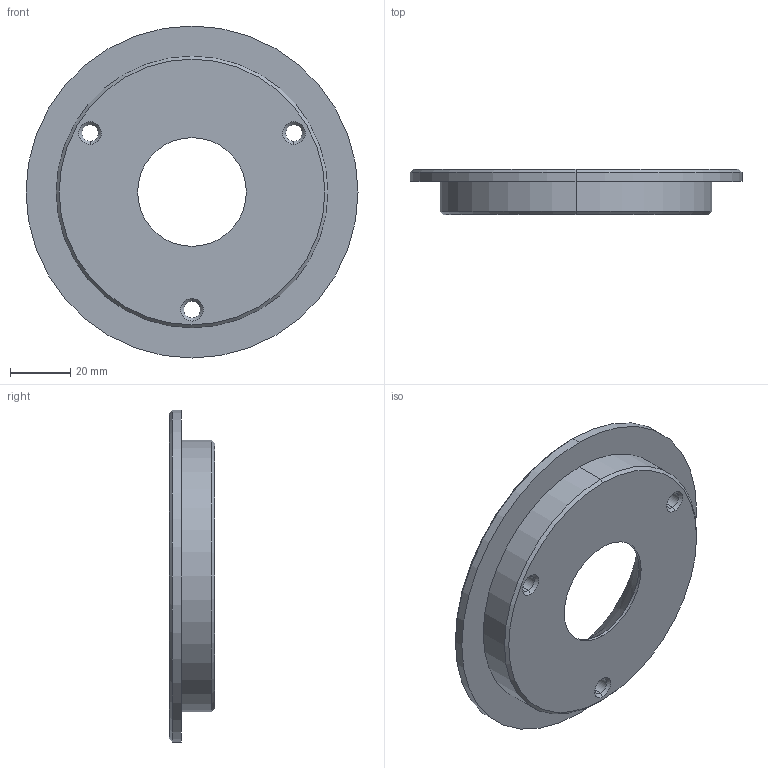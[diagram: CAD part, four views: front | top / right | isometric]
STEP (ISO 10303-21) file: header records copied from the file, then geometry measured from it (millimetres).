
FILE_DESCRIPTION (( 'STEP AP214' ), '1' );
FILE_NAME ('BR1000-110x15.STEP', '2020-02-05T12:21:17', ( 'August' ), ( '' ), 'SwSTEP 2.0', 'SolidWorks 2018', '' );
FILE_SCHEMA (( 'AUTOMOTIVE_DESIGN' ));
Length unit declared in the file: millimetre
Products named in the file (1): BR1000-110x15
Bounding box: 110 x 15 x 110 mm (x, y, z)
Volume: 76531.4 mm3; surface area: 22884 mm2
Topology: 1 solids, 1 shells, 42 faces, 90 edges, 54 vertices
Faces by surface type: cone 18, cylinder 18, plane 6
Entity records: 1194 total; most frequent: DIRECTION 230, CARTESIAN_POINT 187, ORIENTED_EDGE 180, AXIS2_PLACEMENT_3D 97, EDGE_CURVE 90, EDGE_LOOP 54, CIRCLE 54, VERTEX_POINT 54
